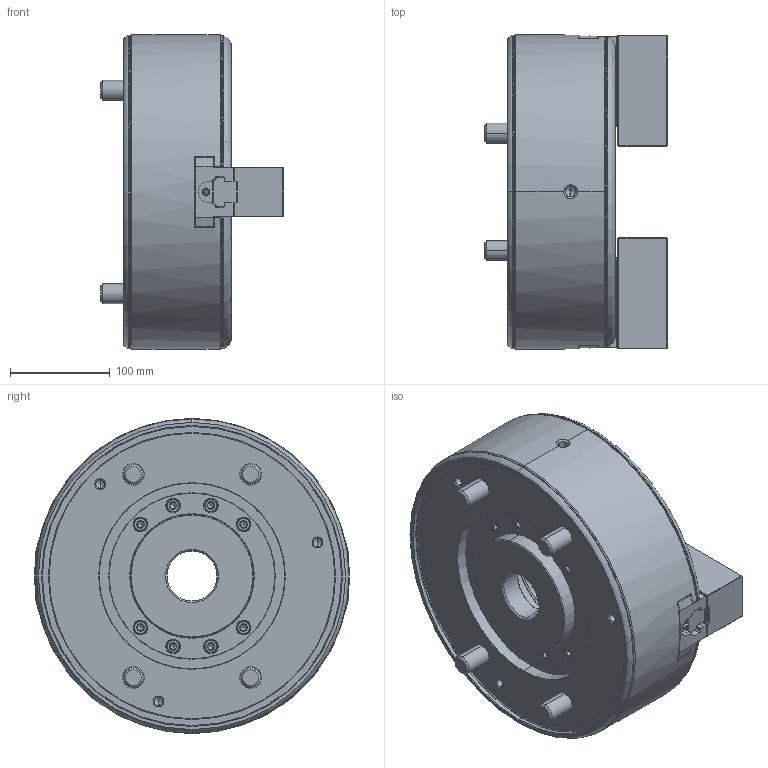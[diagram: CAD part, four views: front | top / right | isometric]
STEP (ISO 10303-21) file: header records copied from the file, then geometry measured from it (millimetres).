
FILE_DESCRIPTION (( 'STEP AP214' ), '1' );
FILE_NAME ('DEV-BRT12-OUTSIDE_VIEW_HCL.STEP', '2024-03-04T01:50:14', ( '' ), ( '' ), 'SwSTEP 2.0', 'SolidWorks 2022', '' );
FILE_SCHEMA (( 'AUTOMOTIVE_DESIGN' ));
Length unit declared in the file: millimetre
Products named in the file (9): Part1^DEV-BRT12-クミタテ; DEV-BRT12-OUTSIDE_VIEW_HCL; DEV-BRT12-ドローナット; DEV-BRT12-Bアナツキ M20×110; DEV-BRT12-Bアナツキ M16×35; DEV-BRT12-カバー; DEV-BRT12-Bアナツキボタン M6×10; DEV-BRT12-Tナット; DEV-BRT12-SB12N1 ソフトジョー
Assembly tree (19 placements, depth 2):
  DEV-BRT12-OUTSIDE_VIEW_HCL
    DEV-BRT12-ドローナット
    DEV-BRT12-SB12N1 ソフトジョー  x2
    DEV-BRT12-Tナット  x2
    DEV-BRT12-カバー
    DEV-BRT12-Bアナツキ M16×35  x4
    DEV-BRT12-Bアナツキボタン M6×10  x4
    DEV-BRT12-Bアナツキ M20×110  x4
    Part1^DEV-BRT12-クミタテ
Bounding box: 183 x 315 x 315 mm (x, y, z)
Volume: 7471867.6 mm3; surface area: 586597 mm2
Topology: 19 solids, 34 shells, 3569 faces, 9836 edges, 6407 vertices
Faces by surface type: plane 2566, cylinder 381, cone 352, bspline 190, torus 76, sphere 4
Entity records: 98590 total; most frequent: CARTESIAN_POINT 26389, ORIENTED_EDGE 15638, DIRECTION 13537, EDGE_CURVE 7819, VECTOR 6035, LINE 6035, VERTEX_POINT 5122, AXIS2_PLACEMENT_3D 3751
